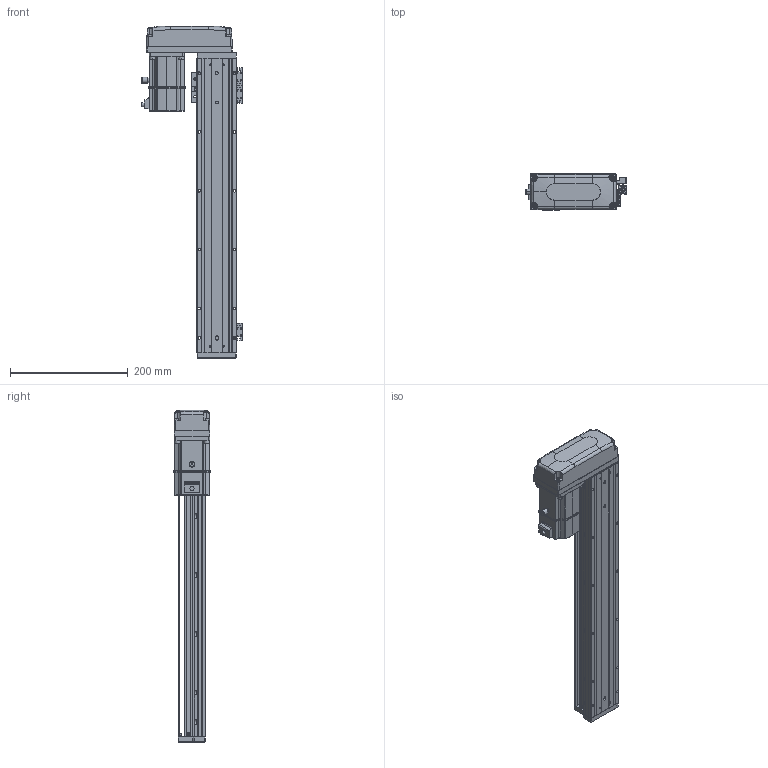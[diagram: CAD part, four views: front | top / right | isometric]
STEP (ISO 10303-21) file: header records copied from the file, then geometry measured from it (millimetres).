
FILE_DESCRIPTION (( 'STEP AP203' ), '1' );
FILE_NAME ('KTHA60-400-BR-M20-C4L.step', '2022-12-16T01:39:10', ( '微软用户' ), ( '微软中国' ), 'SwSTEP 2.0', 'SolidWorks 2020', '' );
FILE_SCHEMA (( 'CONFIG_CONTROL_DESIGN' ));
Length unit declared in the file: millimetre
Products named in the file (17): GBT 70.1-M3℅6; GBT 70.3-M3℅6; CTHA60-016; EE_SX911P_R; KTHA60-002; CTHA60-017; BTH80-026; KTHA60-001_500; CTHA60-021; CTHA60-006-2_CTHA60-006-2; KTHA60-004; GBT 70.1-M4×16; _X2_4E0983F1_X0_200W_1; KTHA60-005; GBT77-2000M3-3; KTHA60-400-BR-M20-C4L; GB¨uT 70.2-M3¡Á5_M3¡Á6
Assembly tree (51 placements, depth 2):
  KTHA60-400-BR-M20-C4L
    KTHA60-001_500
    KTHA60-004
    KTHA60-005
    GB¨uT 70.2-M3¡Á5_M3¡Á6  x6
    GBT 70.3-M3℅6  x4
    EE_SX911P_R  x3
    CTHA60-017  x3
    CTHA60-021  x2
    GBT 70.1-M4×16  x8
    GBT77-2000M3-3  x6
    GBT 70.1-M3℅6  x10
    CTHA60-016  x2
    KTHA60-002
    BTH80-026
    CTHA60-006-2_CTHA60-006-2
    _X2_4E0983F1_X0_200W_1
Bounding box: 173.02 x 62.42 x 564 mm (x, y, z)
Volume: 1325472 mm3; surface area: 350514.9 mm2
Topology: 54 solids, 54 shells, 2428 faces, 5773 edges, 3550 vertices
Faces by surface type: plane 1285, cylinder 644, cone 282, bspline 109, torus 92, sphere 16
Entity records: 44886 total; most frequent: CARTESIAN_POINT 10482, ORIENTED_EDGE 6594, DIRECTION 6588, EDGE_CURVE 3297, AXIS2_PLACEMENT_3D 2275, VERTEX_POINT 2059, VECTOR 2038, LINE 2038
